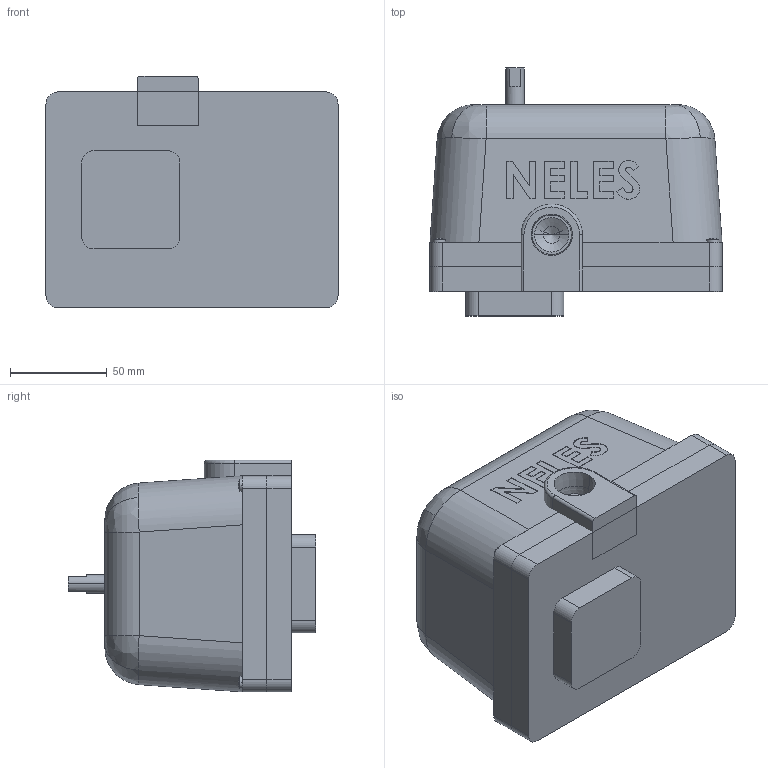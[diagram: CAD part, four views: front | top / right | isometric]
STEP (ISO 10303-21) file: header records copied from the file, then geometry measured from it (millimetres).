
FILE_DESCRIPTION (( 'STEP AP214' ), '1' );
FILE_NAME ('LCR.STEP', '2024-05-09T13:11:10', ( '' ), ( '' ), 'SwSTEP 2.0', 'SolidWorks 2020', '' );
FILE_SCHEMA (( 'AUTOMOTIVE_DESIGN' ));
Length unit declared in the file: millimetre
Products named in the file (1): LCR
Bounding box: 151.13 x 128.27 x 119.89 mm (x, y, z)
Volume: 1527526.6 mm3; surface area: 119446.4 mm2
Topology: 3 solids, 3 shells, 257 faces, 680 edges, 445 vertices
Faces by surface type: plane 167, cylinder 37, bspline 36, cone 8, sphere 8, torus 1
Entity records: 12191 total; most frequent: CARTESIAN_POINT 3086, ORIENTED_EDGE 1356, DIRECTION 1199, EDGE_CURVE 678, VERTEX_POINT 445, VECTOR 443, LINE 443, AXIS2_PLACEMENT_3D 378
